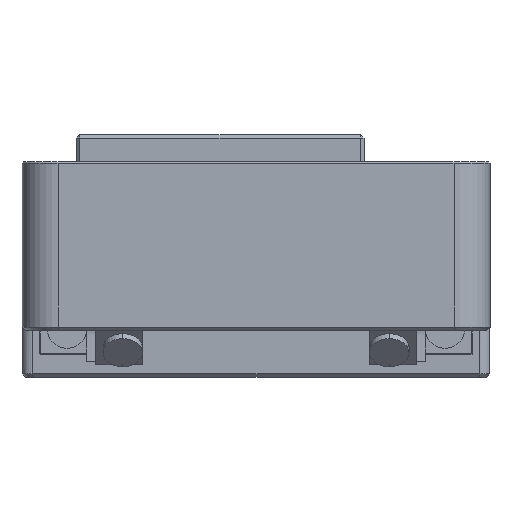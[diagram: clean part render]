
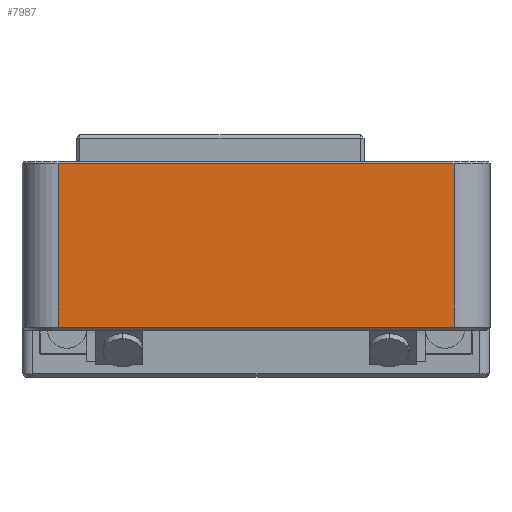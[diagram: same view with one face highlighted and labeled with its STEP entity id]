
A CAD part, front view. The second image highlights one B-rep face of the part: STEP entity #7987.
In plain terms, the highlighted planar face has unit normal (0, -1, 0) as drawn and (-1, 0, 0) by its records, which use the part's own axes.
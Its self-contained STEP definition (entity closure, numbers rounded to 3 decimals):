
#733 = CARTESIAN_POINT ( 'NONE',  ( -123.905, -55., 46.5 ) ) ;
#867 = EDGE_CURVE ( 'NONE', #1706, #7870, #2663, .T. ) ;
#1037 = EDGE_LOOP ( 'NONE', ( #12084, #13271, #22323, #14840 ) ) ;
#1142 = LINE ( 'NONE', #11177, #19969 ) ;
#1338 = VERTEX_POINT ( 'NONE', #5577 ) ;
#1706 = VERTEX_POINT ( 'NONE', #2366 ) ;
#2366 = CARTESIAN_POINT ( 'NONE',  ( -123.905, 55., 1. ) ) ;
#2663 = LINE ( 'NONE', #18106, #9855 ) ;
#3431 = DIRECTION ( 'NONE',  ( 0., 1., 0. ) ) ;
#4816 = CARTESIAN_POINT ( 'NONE',  ( -123.905, 55., 0. ) ) ;
#5577 = CARTESIAN_POINT ( 'NONE',  ( -123.905, 55., 46.5 ) ) ;
#6126 = CARTESIAN_POINT ( 'NONE',  ( -123.905, -55., 1. ) ) ;
#6740 = VECTOR ( 'NONE', #8817, 1000. ) ;
#7573 = DIRECTION ( 'NONE',  ( 0., 0., 1. ) ) ;
#7870 = VERTEX_POINT ( 'NONE', #6126 ) ;
#7987 = ADVANCED_FACE ( 'NONE', ( #10068 ), #21920, .F. ) ;
#8198 = EDGE_CURVE ( 'NONE', #7870, #15207, #1142, .T. ) ;
#8817 = DIRECTION ( 'NONE',  ( 0., 1., 0. ) ) ;
#9068 = EDGE_CURVE ( 'NONE', #15207, #1338, #17390, .T. ) ;
#9855 = VECTOR ( 'NONE', #21941, 1000. ) ;
#10068 = FACE_OUTER_BOUND ( 'NONE', #1037, .T. ) ;
#10244 = AXIS2_PLACEMENT_3D ( 'NONE', #11658, #13555, #3431 ) ;
#10728 = CARTESIAN_POINT ( 'NONE',  ( -123.905, 65., 46.5 ) ) ;
#11177 = CARTESIAN_POINT ( 'NONE',  ( -123.905, -55., 47. ) ) ;
#11572 = DIRECTION ( 'NONE',  ( 0., 0., -1. ) ) ;
#11658 = CARTESIAN_POINT ( 'NONE',  ( -123.905, 65., 47. ) ) ;
#11905 = LINE ( 'NONE', #4816, #19561 ) ;
#12084 = ORIENTED_EDGE ( 'NONE', *, *, #13129, .T. ) ;
#13129 = EDGE_CURVE ( 'NONE', #1338, #1706, #11905, .T. ) ;
#13271 = ORIENTED_EDGE ( 'NONE', *, *, #867, .T. ) ;
#13555 = DIRECTION ( 'NONE',  ( 1., 0., 0. ) ) ;
#14840 = ORIENTED_EDGE ( 'NONE', *, *, #9068, .T. ) ;
#15207 = VERTEX_POINT ( 'NONE', #733 ) ;
#17390 = LINE ( 'NONE', #10728, #6740 ) ;
#18106 = CARTESIAN_POINT ( 'NONE',  ( -123.905, 65., 1. ) ) ;
#19561 = VECTOR ( 'NONE', #11572, 1000. ) ;
#19969 = VECTOR ( 'NONE', #7573, 1000. ) ;
#21920 = PLANE ( 'NONE',  #10244 ) ;
#21941 = DIRECTION ( 'NONE',  ( 0., -1., 0. ) ) ;
#22323 = ORIENTED_EDGE ( 'NONE', *, *, #8198, .T. ) ;
